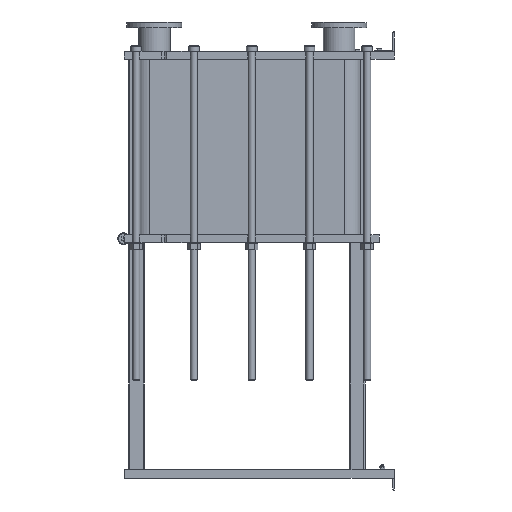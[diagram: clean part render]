
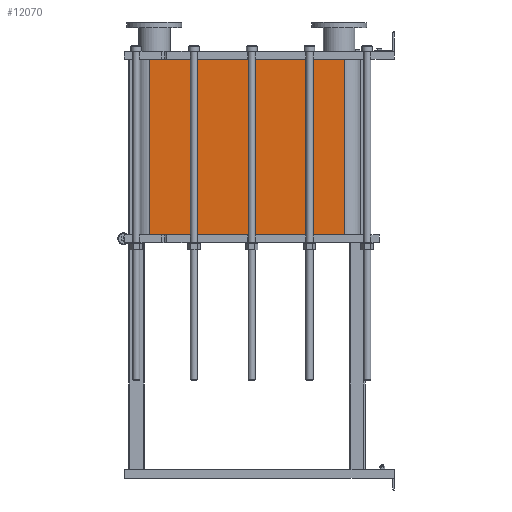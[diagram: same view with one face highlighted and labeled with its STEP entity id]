
A CAD part, left-side view. The second image highlights one B-rep face of the part: STEP entity #12070.
In plain terms, the highlighted planar face has unit normal (-1, 0, 0).
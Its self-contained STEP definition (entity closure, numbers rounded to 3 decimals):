
#1064=LINE('',#21140,#2164);
#1065=LINE('',#21144,#2165);
#1066=LINE('',#21146,#2166);
#1067=LINE('',#21147,#2167);
#2164=VECTOR('',#15790,10.);
#2165=VECTOR('',#15795,10.);
#2166=VECTOR('',#15796,10.);
#2167=VECTOR('',#15797,10.);
#3304=FACE_OUTER_BOUND('',#4091,.T.);
#4091=EDGE_LOOP('',(#9793,#9794,#9795,#9796));
#5677=VERTEX_POINT('',#21137);
#5678=VERTEX_POINT('',#21139);
#5679=VERTEX_POINT('',#21143);
#5680=VERTEX_POINT('',#21145);
#7118=EDGE_CURVE('',#5678,#5677,#1064,.T.);
#7120=EDGE_CURVE('',#5677,#5679,#1065,.T.);
#7121=EDGE_CURVE('',#5680,#5679,#1066,.T.);
#7122=EDGE_CURVE('',#5680,#5678,#1067,.T.);
#9793=ORIENTED_EDGE('',*,*,#7120,.T.);
#9794=ORIENTED_EDGE('',*,*,#7121,.F.);
#9795=ORIENTED_EDGE('',*,*,#7122,.T.);
#9796=ORIENTED_EDGE('',*,*,#7118,.T.);
#11441=PLANE('',#13191);
#12070=ADVANCED_FACE('',(#3304),#11441,.T.);
#13191=AXIS2_PLACEMENT_3D('',#21142,#15793,#15794);
#15790=DIRECTION('',(0.,0.,-1.));
#15793=DIRECTION('center_axis',(-1.,0.,0.));
#15794=DIRECTION('ref_axis',(0.,1.,0.));
#15795=DIRECTION('',(0.,-1.,0.));
#15796=DIRECTION('',(0.,0.,-1.));
#15797=DIRECTION('',(0.,1.,0.));
#21137=CARTESIAN_POINT('',(-248.152,1243.818,-893.55));
#21139=CARTESIAN_POINT('',(-248.152,1243.818,0.));
#21140=CARTESIAN_POINT('',(-248.152,1243.818,0.));
#21142=CARTESIAN_POINT('Origin',(-248.152,251.818,0.));
#21143=CARTESIAN_POINT('',(-248.152,251.818,-893.55));
#21144=CARTESIAN_POINT('',(-248.152,499.818,-893.55));
#21145=CARTESIAN_POINT('',(-248.152,251.818,0.));
#21146=CARTESIAN_POINT('',(-248.152,251.818,0.));
#21147=CARTESIAN_POINT('',(-248.152,251.818,0.));
